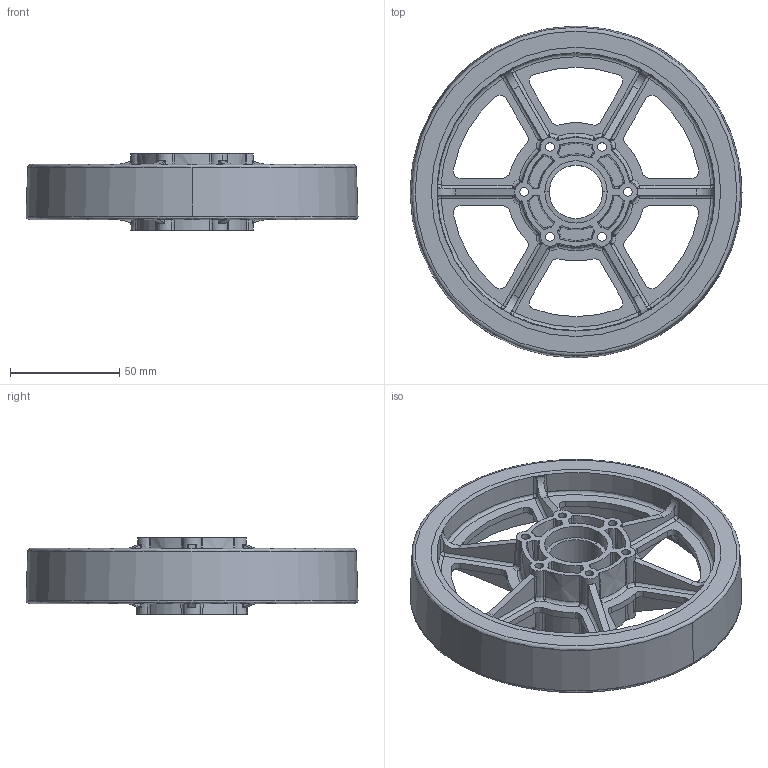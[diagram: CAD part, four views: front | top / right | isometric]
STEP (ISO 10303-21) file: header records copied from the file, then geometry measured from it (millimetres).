
FILE_DESCRIPTION((''),'2;1');
FILE_NAME('C:\Documents and Settings\Owner\Desktop\FirstCadLibrary Transfer\AM-0144.stp','2008-01-05T18:45:40',('Owner'),(''),'Autodesk Inventor (R) 6.0','Autodesk Inventor (R) 6.0','');
FILE_SCHEMA(('AUTOMOTIVE_DESIGN { 1 0 10303 214 1 1 1 1 }'));
Length unit declared in the file: inch
Products named in the file (3): AM-0144 First 08 Wheel_6; AM-0144 Hub; AM-0144 Tread
Assembly tree (2 placements, depth 2):
  AM-0144 First 08 Wheel_6
    AM-0144 Hub
    AM-0144 Tread
Bounding box: 152.29 x 152.29 x 34.92 mm (x, y, z)
Volume: 198392.5 mm3; surface area: 100113.5 mm2
Topology: 2 solids, 2 shells, 2952 faces, 7213 edges, 4229 vertices
Faces by surface type: cylinder 1217, bspline 1161, plane 464, cone 98, sphere 12
Entity records: 127386 total; most frequent: CARTESIAN_POINT 64977, ORIENTED_EDGE 14300, DIRECTION 11908, EDGE_CURVE 7150, AXIS2_PLACEMENT_3D 4904, VERTEX_POINT 4222, EDGE_LOOP 3000, FACE_OUTER_BOUND 2952
